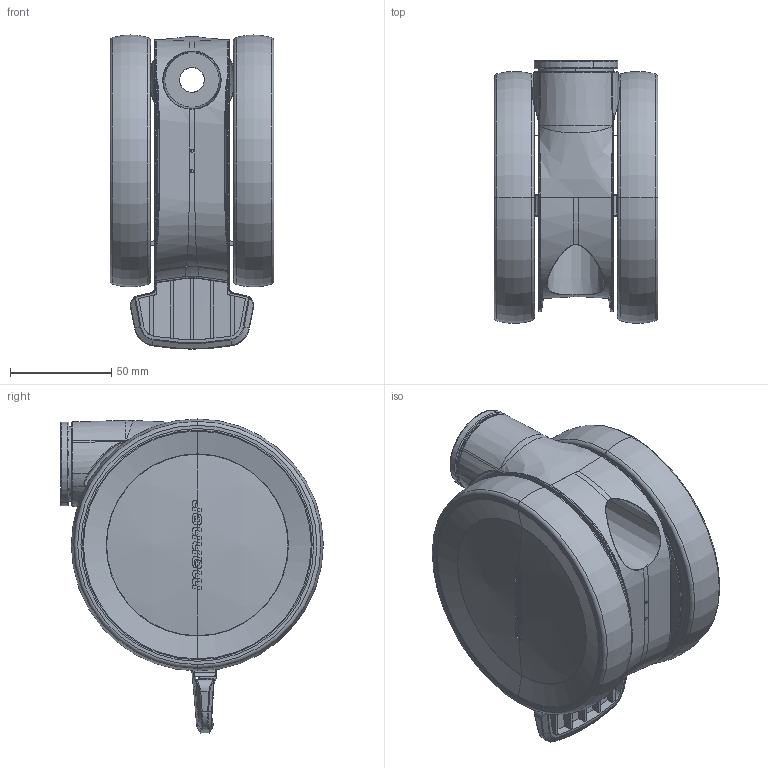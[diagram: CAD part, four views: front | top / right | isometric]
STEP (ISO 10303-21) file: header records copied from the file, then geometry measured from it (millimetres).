
FILE_DESCRIPTION (( 'STEP AP214' ), '1' );
FILE_NAME ('305034 TW-J-S-125 GP_K LOW-12 H.STEP', '2020-01-20T08:20:10', ( '' ), ( '' ), 'SwSTEP 2.0', 'SolidWorks 2017', '' );
FILE_SCHEMA (( 'AUTOMOTIVE_DESIGN' ));
Length unit declared in the file: millimetre
Products named in the file (1): 305034 TW-J-S-125 GP_K LOW-12 H
Bounding box: 81 x 129.75 x 155.18 mm (x, y, z)
Surface area: 107391.4 mm2 (no closed solid volume)
Topology: 0 solids, 11 shells, 493 faces, 1680 edges, 1133 vertices
Faces by surface type: plane 150, bspline 123, cylinder 112, torus 48, sphere 48, cone 12
Entity records: 33290 total; most frequent: CARTESIAN_POINT 14716, ORIENTED_EDGE 2852, DIRECTION 2472, EDGE_CURVE 1680, VERTEX_POINT 1133, AXIS2_PLACEMENT_3D 1039, CIRCLE 668, B_SPLINE_CURVE_WITH_KNOTS 548
